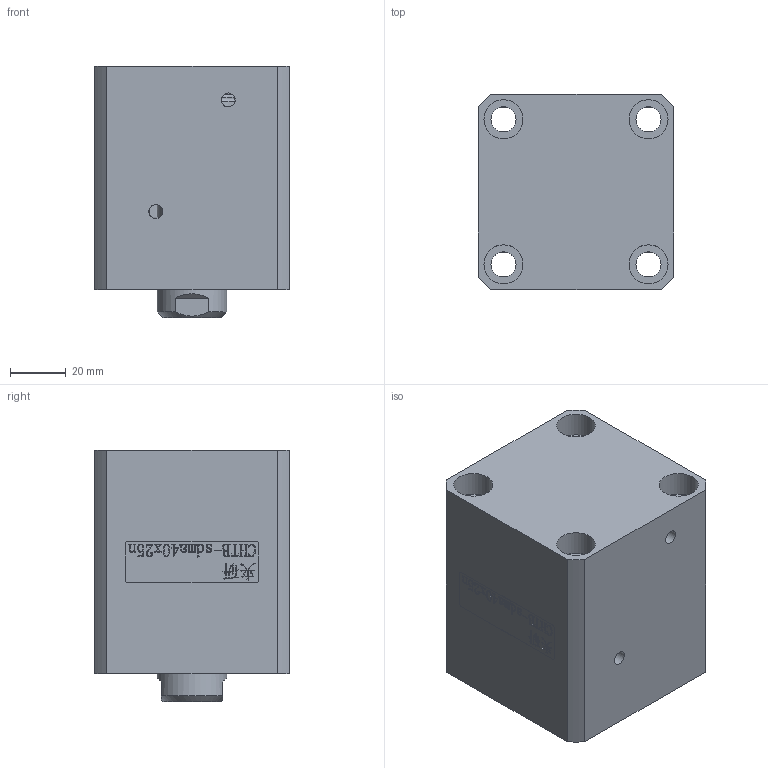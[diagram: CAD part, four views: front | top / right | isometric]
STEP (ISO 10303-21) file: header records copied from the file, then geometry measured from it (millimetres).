
FILE_DESCRIPTION(/* description */ (''),/* implementation_level */ '2;1');
FILE_NAME(/* name */ 'CHTB-sdma40x25n.stp',/* time_stamp */ '2022-04-29T17:42:39+08:00',/* author */ (''),/* organization */ (''),/* preprocessor_version */ 'ST-DEVELOPER v16.7',/* originating_system */ 'SIEMENS PLM Software NX 12.0',/* authorisation */ '');
FILE_SCHEMA (('AUTOMOTIVE_DESIGN { 1 0 10303 214 3 1 1 1 }'));
Length unit declared in the file: millimetre
Products named in the file (1): CHTB-sdma40x25n
Bounding box: 70 x 70 x 90 mm (x, y, z)
Volume: 336599.7 mm3; surface area: 74426.1 mm2
Topology: 3 solids, 3 shells, 493 faces, 1332 edges, 891 vertices
Faces by surface type: plane 315, extrusion 115, cylinder 41, torus 11, bspline 6, cone 5
Full cylindrical faces by diameter (mm): 4 x2, 4.2 x2, 5 x3, 9 x6, 14 x9, 25 x2, 29 x1, 34 x2, 40 x4, 45 x1
Entity records: 22390 total; most frequent: CARTESIAN_POINT 7907, ORIENTED_EDGE 2526, DIRECTION 1942, EDGE_CURVE 1263, VECTOR 1012, LINE 897, VERTEX_POINT 872, EDGE_LOOP 605
